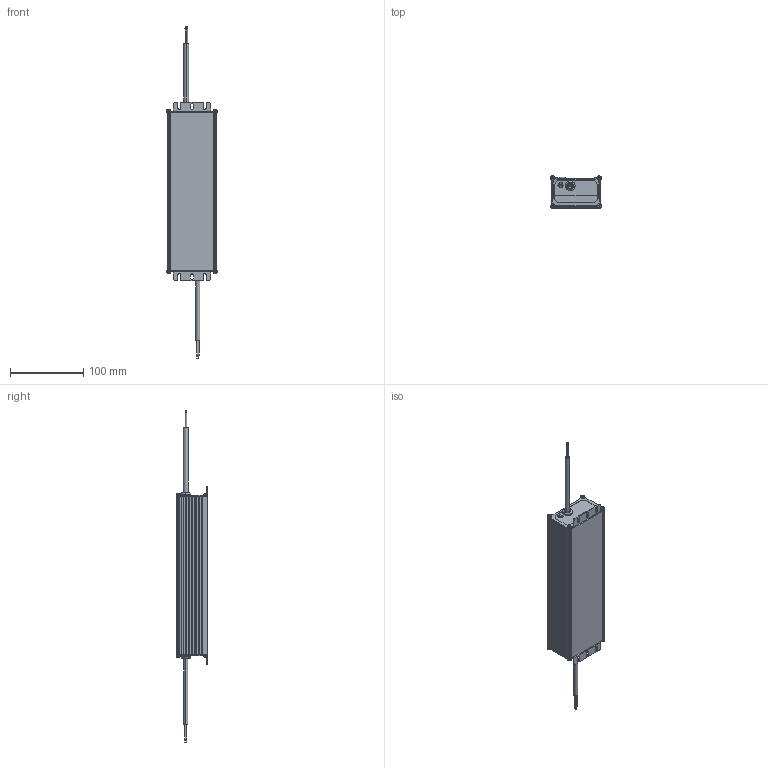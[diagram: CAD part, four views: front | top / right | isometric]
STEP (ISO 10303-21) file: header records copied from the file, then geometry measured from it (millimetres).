
FILE_DESCRIPTION (( 'STEP AP214' ), '1' );
FILE_NAME ('HC_150W_Assy.STEP', '2018-08-09T03:38:25', ( '' ), ( '' ), 'SwSTEP 2.0', 'SolidWorks 2015', '' );
FILE_SCHEMA (( 'AUTOMOTIVE_DESIGN' ));
Length unit declared in the file: millimetre
Products named in the file (20): cap_out_out; potting_1st; Part1^Assem_150W_Standard; block_Standard; cross recessed thread forming screws gb_GB_CROSS_SCREWS_TYPE138 M3X6-N; gasket; cable_bushing_in_3c; cap_in_out; cover_150W_150; base_150W_150; sec potting_Standard; HC_150W_Assy; PCBA_150W_Standard; ground wire output_Standard; output cable_150W; input cable_150W; 3362F_Standard; TO220_Assem_Standard; 1Q1-OT HC Heatsink-000-00_Standard; 045_TO220_L08_Standard
Assembly tree (28 placements, depth 4):
  Part1^Assem_150W_Standard
  HC_150W_Assy
    base_150W_150
    cover_150W_150
    cap_in_out
    cable_bushing_in_3c  x2
    gasket  x2
    cross recessed thread forming screws gb_GB_CROSS_SCREWS_TYPE138 M3X6-N  x8
    block_Standard
    potting_1st
    cap_out_out
    PCBA_150W_Standard
      TO220_Assem_Standard  x2
        045_TO220_L08_Standard
        1Q1-OT HC Heatsink-000-00_Standard
      3362F_Standard
      input cable_150W
      output cable_150W
      ground wire output_Standard
    sec potting_Standard
Bounding box: 69.61 x 43.5 x 451.75 mm (x, y, z)
Volume: 565459 mm3; surface area: 207790.2 mm2
Topology: 31 solids, 31 shells, 1259 faces, 3133 edges, 1998 vertices
Faces by surface type: plane 683, cylinder 412, torus 86, cone 42, bspline 18, sphere 18
Entity records: 30312 total; most frequent: CARTESIAN_POINT 6210, DIRECTION 4707, ORIENTED_EDGE 4378, EDGE_CURVE 2189, AXIS2_PLACEMENT_3D 1673, VERTEX_POINT 1400, VECTOR 1361, LINE 1361
